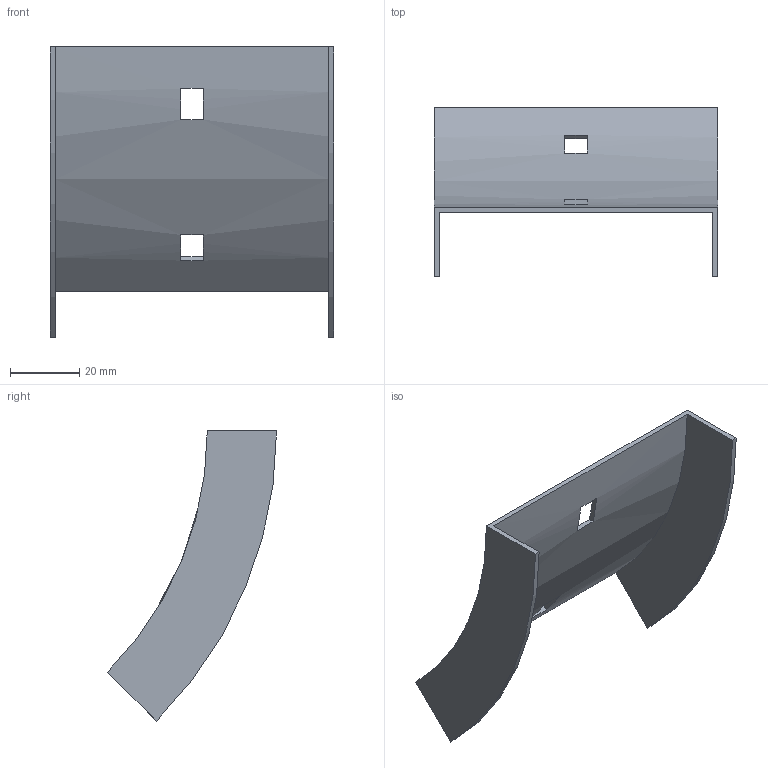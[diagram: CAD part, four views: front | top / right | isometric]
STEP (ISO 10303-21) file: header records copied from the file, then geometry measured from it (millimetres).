
FILE_DESCRIPTION (( 'STEP AP214' ), '1' );
FILE_NAME ('31N1R075.step', '2025-02-21T09:22:52', ( '' ), ( '' ), 'SwSTEP 2.0', 'SolidWorks 2023', '' );
FILE_SCHEMA (( 'AUTOMOTIVE_DESIGN' ));
Length unit declared in the file: millimetre
Products named in the file (1): 31N1R075
Bounding box: 82 x 48.85 x 83.79 mm (x, y, z)
Volume: 14172.1 mm3; surface area: 19624.9 mm2
Topology: 1 solids, 1 shells, 18 faces, 48 edges, 32 vertices
Faces by surface type: plane 14, cylinder 4
Entity records: 599 total; most frequent: DIRECTION 102, CARTESIAN_POINT 99, ORIENTED_EDGE 96, EDGE_CURVE 48, AXIS2_PLACEMENT_3D 35, VERTEX_POINT 32, LINE 32, VECTOR 32
